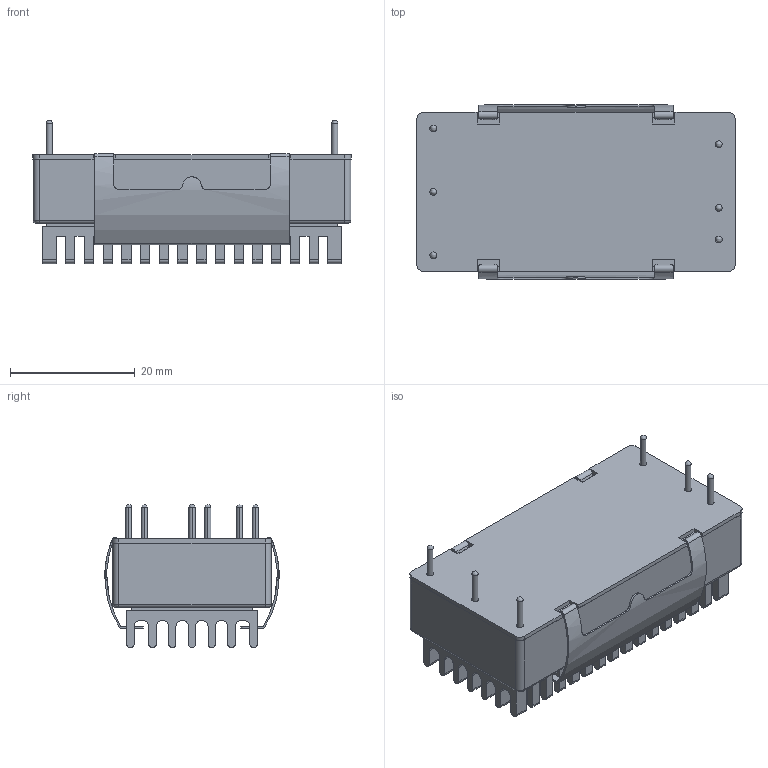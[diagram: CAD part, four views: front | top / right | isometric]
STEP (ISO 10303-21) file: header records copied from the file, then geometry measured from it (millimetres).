
FILE_DESCRIPTION (( 'STEP AP214' ), '1' );
FILE_NAME ('ten40win-24vout-with-heatsink.STEP', '2016-03-31T15:04:42', ( '' ), ( '' ), 'SwSTEP 2.0', 'SolidWorks 2013', '' );
FILE_SCHEMA (( 'AUTOMOTIVE_DESIGN' ));
Length unit declared in the file: millimetre
Products named in the file (2): assembly; ten40win-24vout-with-heatsink
Assembly tree (1 placements, depth 2):
  ten40win-24vout-with-heatsink
    assembly
Bounding box: 50.95 x 27.92 x 22.95 mm (x, y, z)
Volume: 6370.8 mm3; surface area: 12936.5 mm2
Topology: 1 solids, 1 shells, 970 faces, 2744 edges, 1740 vertices
Faces by surface type: plane 530, cylinder 426, bspline 10, torus 4
Entity records: 42418 total; most frequent: CARTESIAN_POINT 5860, DIRECTION 5576, ORIENTED_EDGE 5456, EDGE_CURVE 2728, AXIS2_PLACEMENT_3D 1928, VERTEX_POINT 1740, LINE 1720, VECTOR 1720
